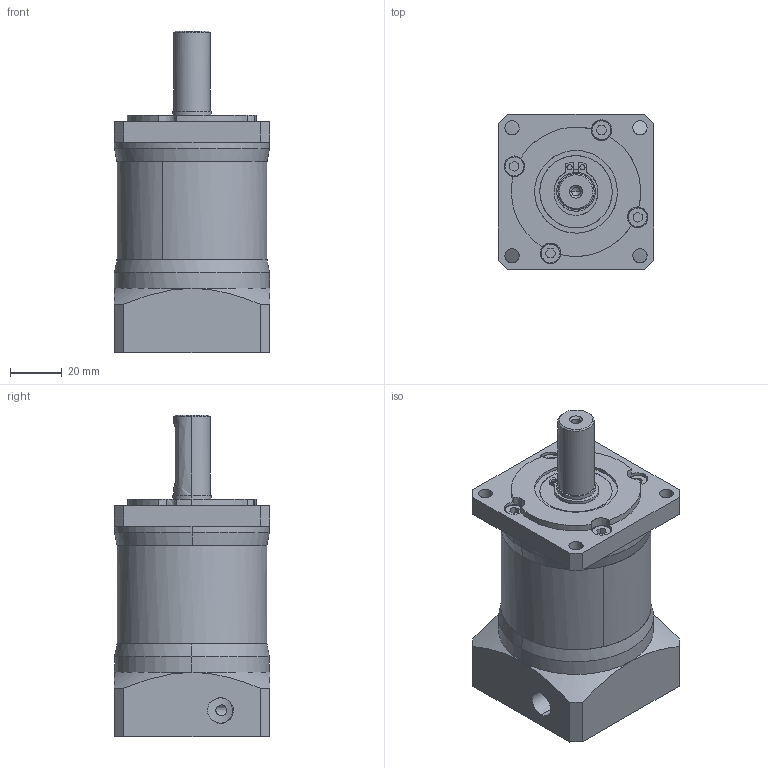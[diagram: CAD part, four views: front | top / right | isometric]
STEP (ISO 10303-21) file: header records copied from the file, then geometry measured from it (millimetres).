
FILE_DESCRIPTION (( 'STEP AP214' ), '1' );
FILE_NAME ('60SPX-(16-100)（三协）.STEP', '2021-12-04T03:15:00', ( '微软用户' ), ( '微软中国' ), 'SwSTEP 2.0', 'SolidWorks 2020', '' );
FILE_SCHEMA (( 'AUTOMOTIVE_DESIGN' ));
Length unit declared in the file: millimetre
Products named in the file (10): 60齿圈2.igs; M4内六角螺丝头 - 副本.igs; SPLF60怀堤楊擘.igs; 60SPX-(16-100)（三协）; 伺服60输入轴.igs; M5囀鞠褒蹟佪芛 -.igs; 15俋縐.igs; 6903.igs; SPLF60输入法兰MA.igs; SPLF60-L2MA.igs
Assembly tree (17 placements, depth 3):
  60SPX-(16-100)（三协）
    SPLF60-L2MA.igs
      60齿圈2.igs
      伺服60输入轴.igs
      6903.igs
      M4内六角螺丝头 - 副本.igs  x8
      M5囀鞠褒蹟佪芛 -.igs  x2
      SPLF60输入法兰MA.igs
      SPLF60怀堤楊擘.igs
      15俋縐.igs
Bounding box: 60 x 60 x 124.5 mm (x, y, z)
Volume: 248482 mm3; surface area: 59192 mm2
Topology: 16 solids, 16 shells, 418 faces, 985 edges, 627 vertices
Faces by surface type: bspline 418
Entity records: 14811 total; most frequent: CARTESIAN_POINT 9551, ORIENTED_EDGE 1502, EDGE_CURVE 751, B_SPLINE_CURVE_WITH_KNOTS 507, VERTEX_POINT 483, EDGE_LOOP 386, ADVANCED_FACE 314, FACE_OUTER_BOUND 314
